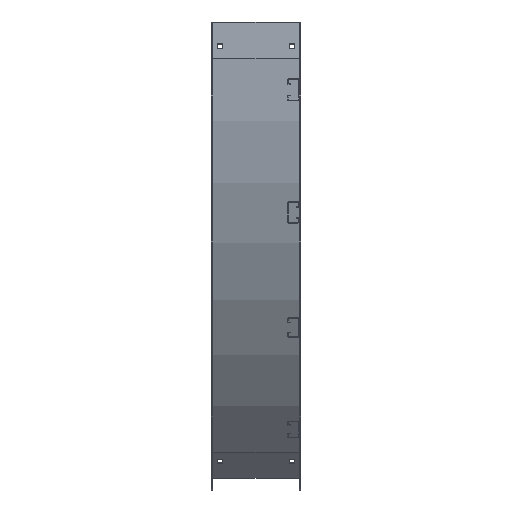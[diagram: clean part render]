
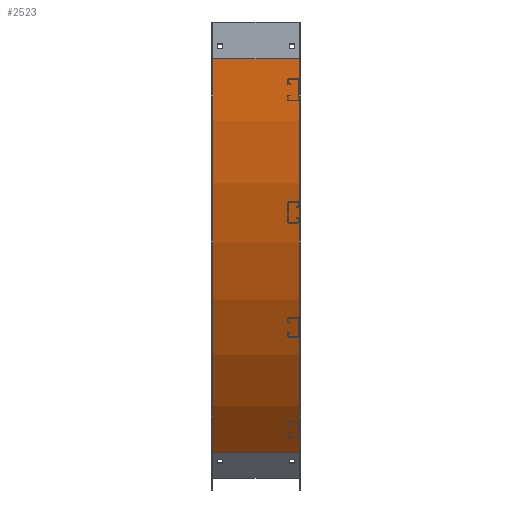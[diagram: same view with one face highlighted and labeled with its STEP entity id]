
A CAD part, left-side view. The second image highlights one B-rep face of the part: STEP entity #2523.
In plain terms, the highlighted cylindrical face has radius 1147.83 mm (diameter 2295.65 mm), a partial arc.
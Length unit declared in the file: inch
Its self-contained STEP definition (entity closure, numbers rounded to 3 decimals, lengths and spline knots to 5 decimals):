
#1560=CARTESIAN_POINT('',(-7.13,-45.09,3.));
#1561=DIRECTION('',(1.,0.,0.));
#1562=DIRECTION('',(0.,1.,0.));
#1563=AXIS2_PLACEMENT_3D('',#1560,#1561,#1562);
#1753=DIRECTION('',(-1.,0.,0.));
#1754=VECTOR('',#1753,7.02);
#1755=CARTESIAN_POINT('',(-0.11,-13.13584,34.95416));
#1756=LINE('',#1755,#1754);
#1793=DIRECTION('',(-1.,0.,0.));
#1794=VECTOR('',#1793,7.02);
#1795=CARTESIAN_POINT('',(-0.11,0.1,3.));
#1796=LINE('',#1795,#1794);
#1797=CARTESIAN_POINT('',(-0.11,-45.09,3.));
#1798=DIRECTION('',(1.,0.,0.));
#1799=DIRECTION('',(0.,1.,0.));
#1800=AXIS2_PLACEMENT_3D('',#1797,#1798,#1799);
#1924=CARTESIAN_POINT('',(-0.11,0.1,3.));
#1925=CARTESIAN_POINT('',(-7.13,0.1,3.));
#1926=VERTEX_POINT('',#1924);
#1927=VERTEX_POINT('',#1925);
#1948=CARTESIAN_POINT('',(-0.11,-13.13584,34.95416));
#1949=CARTESIAN_POINT('',(-7.13,-13.13584,34.95416));
#1950=VERTEX_POINT('',#1948);
#1951=VERTEX_POINT('',#1949);
#2512=CARTESIAN_POINT('',(-1.,-45.09,3.));
#2513=DIRECTION('',(1.,0.,0.));
#2514=DIRECTION('',(0.,-1.,0.));
#2515=AXIS2_PLACEMENT_3D('',#2512,#2513,#2514);
#2516=CYLINDRICAL_SURFACE('',#2515,45.19);
#2517=ORIENTED_EDGE('',*,*,#2297,.F.);
#2518=ORIENTED_EDGE('',*,*,#2338,.T.);
#2519=ORIENTED_EDGE('',*,*,#2485,.T.);
#2520=ORIENTED_EDGE('',*,*,#2275,.F.);
#2521=EDGE_LOOP('',(#2517,#2518,#2519,#2520));
#2522=FACE_OUTER_BOUND('',#2521,.F.);
#2523=ADVANCED_FACE('',(#2522),#2516,.T.);
#1564=CIRCLE('',#1563,45.19);
#1801=CIRCLE('',#1800,45.19);
#2275=EDGE_CURVE('',#1927,#1951,#1564,.T.);
#2297=EDGE_CURVE('',#1926,#1927,#1796,.T.);
#2338=EDGE_CURVE('',#1926,#1950,#1801,.T.);
#2485=EDGE_CURVE('',#1950,#1951,#1756,.T.);
